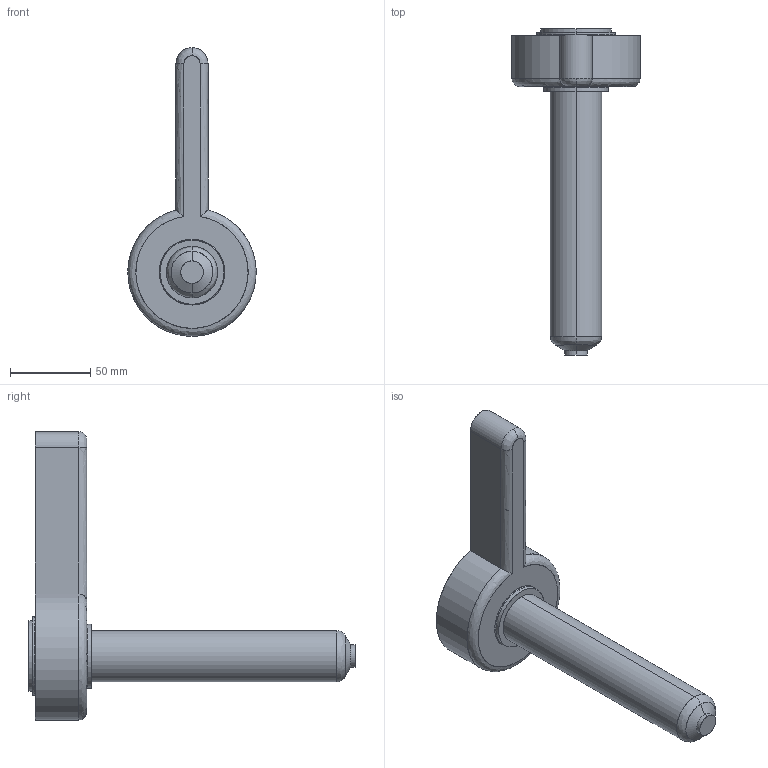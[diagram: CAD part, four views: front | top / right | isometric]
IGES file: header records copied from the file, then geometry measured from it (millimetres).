
Start section: SolidWorks IGES file using analytic representation for surfaces
Global section: file name: C:\Documents and Settings\ws-20\Desktop\TEM\Sede UGBE4504-S-A C-164 L-201 P-0.IGS; native system: SolidWorks 2012; preprocessor: SolidWorks 2012; author: ws-20; date: 120412.155654; units: millimetre
Bounding box: 79.96 x 203.42 x 180 mm (x, y, z)
Surface area: 44020.3 mm2 (no closed solid volume)
Topology: 0 solids, 0 shells, 34 faces, 788 edges, 788 vertices
Faces by surface type: revolution 21, bspline 13
